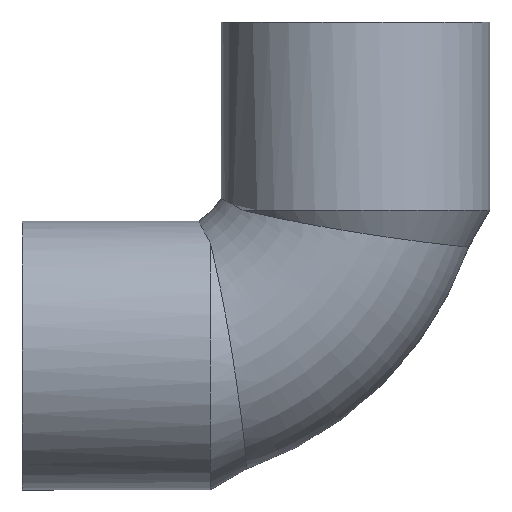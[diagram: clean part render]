
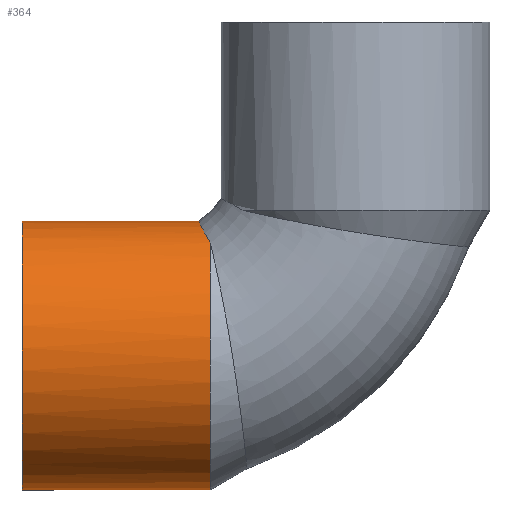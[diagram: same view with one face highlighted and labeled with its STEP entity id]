
A CAD part, top view. The second image highlights one B-rep face of the part: STEP entity #364.
In plain terms, the highlighted cylindrical face has radius 7.7 mm (diameter 15.4 mm), a partial arc.
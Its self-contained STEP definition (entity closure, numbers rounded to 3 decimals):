
#175=CARTESIAN_POINT('',(3.9,-5.2,0.));
#176=VERTEX_POINT('',#175);
#235=CARTESIAN_POINT('',(4.568,-20.6,0.));
#236=VERTEX_POINT('',#235);
#243=CARTESIAN_POINT('',(4.568,-6.448,4.202));
#244=VERTEX_POINT('',#243);
#264=CARTESIAN_POINT('',(4.568,-12.9,0.0));
#265=DIRECTION('',(-1.0,0.0,0.0));
#266=DIRECTION('',(0.0,-1.0,0.0));
#267=AXIS2_PLACEMENT_3D('',#264,#265,#266);
#268=CIRCLE('',#267,7.7);
#269=EDGE_CURVE('',#236,#244,#268,.T.);
#315=CARTESIAN_POINT('',(-0.826,-12.9,0.0));
#316=DIRECTION('',(-1.0,0.,0.0));
#317=DIRECTION('',(0.0,-1.0,0.0));
#318=AXIS2_PLACEMENT_3D('',#315,#316,#317);
#319=CYLINDRICAL_SURFACE('',#318,7.7);
#320=CARTESIAN_POINT('',(-6.22,-20.6,0.));
#321=VERTEX_POINT('',#320);
#322=CARTESIAN_POINT('',(4.568,-20.6,0.));
#323=DIRECTION('',(-1.0,0.0,0.0));
#324=VECTOR('',#323,10.788);
#325=LINE('',#322,#324);
#326=EDGE_CURVE('',#236,#321,#325,.T.);
#327=ORIENTED_EDGE('',*,*,#326,.F.);
#328=ORIENTED_EDGE('',*,*,#269,.T.);
#329=CARTESIAN_POINT('',(3.9,-5.2,0.));
#330=CARTESIAN_POINT('',(3.9,-5.2,0.631));
#331=CARTESIAN_POINT('',(3.938,-5.278,1.258));
#332=CARTESIAN_POINT('',(4.123,-5.64,2.71));
#333=CARTESIAN_POINT('',(4.303,-5.993,3.504));
#334=CARTESIAN_POINT('',(4.568,-6.448,4.202));
#335=B_SPLINE_CURVE_WITH_KNOTS('',3,(#329,#330,#331,#332,#333,#334),.UNSPECIFIED.,.F.,.U.,(4,2,4),(-0.451,-0.262,0.0),.UNSPECIFIED.);
#336=EDGE_CURVE('',#176,#244,#335,.T.);
#337=ORIENTED_EDGE('',*,*,#336,.F.);
#338=CARTESIAN_POINT('',(-6.22,-5.2,0.));
#339=VERTEX_POINT('',#338);
#340=CARTESIAN_POINT('',(-6.22,-5.2,0.));
#341=DIRECTION('',(1.0,0.0,0.0));
#342=VECTOR('',#341,10.12);
#343=LINE('',#340,#342);
#344=EDGE_CURVE('',#339,#176,#343,.T.);
#345=ORIENTED_EDGE('',*,*,#344,.F.);
#346=CARTESIAN_POINT('',(-6.22,-18.345,5.445));
#347=VERTEX_POINT('',#346);
#348=CARTESIAN_POINT('',(-6.22,-12.9,0.0));
#349=DIRECTION('',(-1.0,0.0,0.0));
#350=DIRECTION('',(0.0,-1.0,0.0));
#351=AXIS2_PLACEMENT_3D('',#348,#349,#350);
#352=CIRCLE('',#351,7.7);
#353=EDGE_CURVE('',#347,#339,#352,.T.);
#354=ORIENTED_EDGE('',*,*,#353,.F.);
#355=CARTESIAN_POINT('',(-6.22,-12.9,0.0));
#356=DIRECTION('',(-1.0,0.0,0.0));
#357=DIRECTION('',(0.0,-1.0,0.0));
#358=AXIS2_PLACEMENT_3D('',#355,#356,#357);
#359=CIRCLE('',#358,7.7);
#360=EDGE_CURVE('',#321,#347,#359,.T.);
#361=ORIENTED_EDGE('',*,*,#360,.F.);
#362=EDGE_LOOP('',(#327,#328,#337,#345,#354,#361));
#363=FACE_OUTER_BOUND('',#362,.T.);
#364=ADVANCED_FACE('',(#363),#319,.T.);
